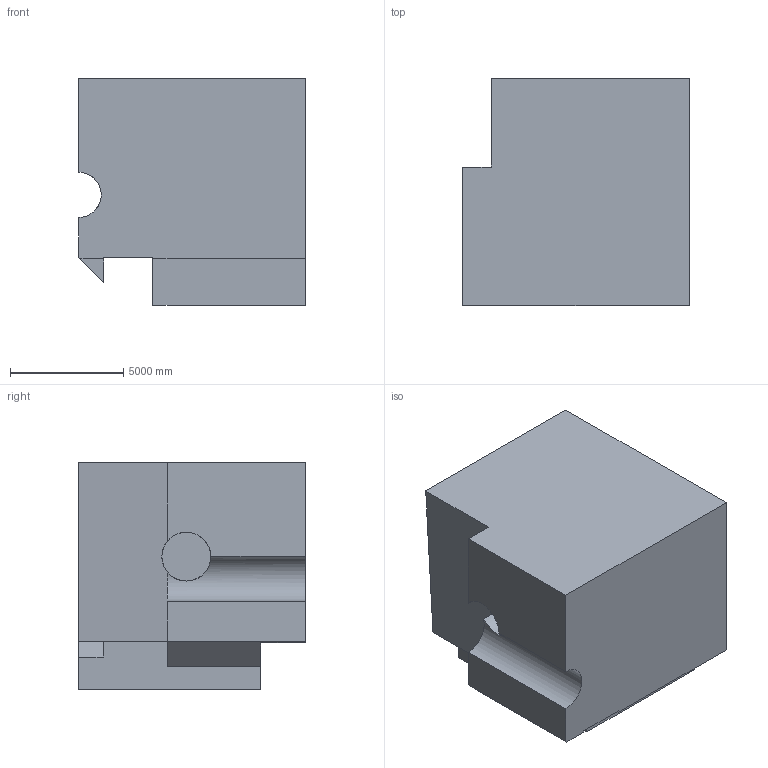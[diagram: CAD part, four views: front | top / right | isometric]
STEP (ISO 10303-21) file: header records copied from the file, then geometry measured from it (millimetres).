
FILE_DESCRIPTION (( 'STEP AP203' ), '1' );
FILE_NAME ('709.STEP', '2022-07-29T12:40:14', ( 'user' ), ( '' ), 'SwSTEP 2.0', 'SolidWorks 2021', '' );
FILE_SCHEMA (( 'CONFIG_CONTROL_DESIGN' ));
Length unit declared in the file: centimetre
Products named in the file (1): 709
Bounding box: 10000 x 10000 x 10000 mm (x, y, z)
Volume: 816984886688.3 mm3; surface area: 631857074.6 mm2
Topology: 1 solids, 1 shells, 33 faces, 93 edges, 62 vertices
Faces by surface type: plane 29, cylinder 4
Entity records: 1277 total; most frequent: CARTESIAN_POINT 341, ORIENTED_EDGE 186, DIRECTION 166, EDGE_CURVE 93, VECTOR 82, LINE 82, VERTEX_POINT 62, AXIS2_PLACEMENT_3D 42
